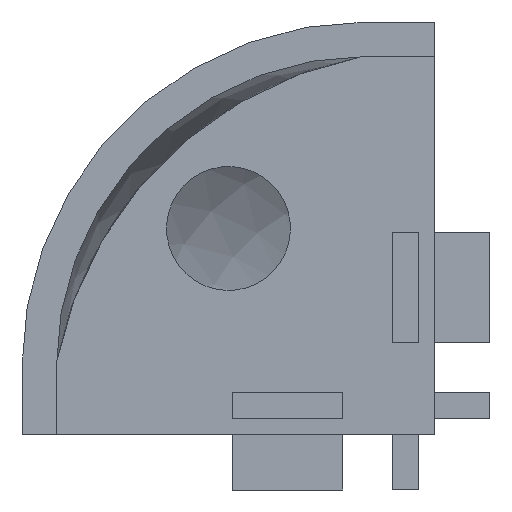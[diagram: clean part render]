
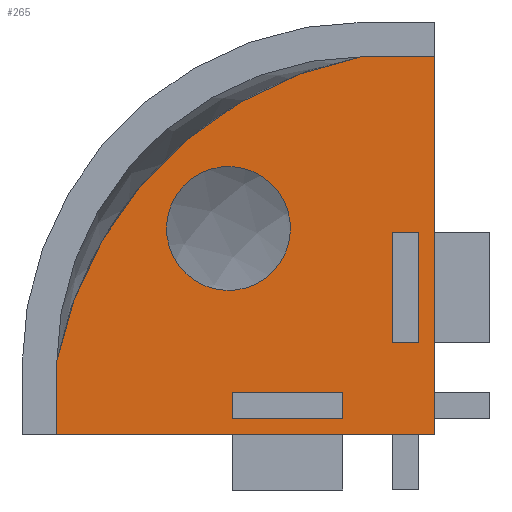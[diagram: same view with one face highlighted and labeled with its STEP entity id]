
A CAD part, left-side view. The second image highlights one B-rep face of the part: STEP entity #265.
In plain terms, the highlighted planar face has unit normal (-1, 0, 0) as drawn and (0, 0, -1) by its records, which use the part's own axes.
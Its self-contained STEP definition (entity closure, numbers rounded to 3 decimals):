
#88=CARTESIAN_POINT('',(1.2,14.7,-5.0));
#89=VERTEX_POINT('',#88);
#90=CARTESIAN_POINT('',(3.1,14.7,-5.0));
#91=VERTEX_POINT('',#90);
#92=CARTESIAN_POINT('',(1.2,14.7,-5.0));
#93=DIRECTION('',(1.0,0.0,0.0));
#94=VECTOR('',#93,1.9);
#95=LINE('',#92,#94);
#96=EDGE_CURVE('',#89,#91,#95,.T.);
#128=CARTESIAN_POINT('',(3.1,6.7,-5.0));
#129=VERTEX_POINT('',#128);
#130=CARTESIAN_POINT('',(3.1,14.7,-5.0));
#131=DIRECTION('',(0.0,-1.0,0.0));
#132=VECTOR('',#131,8.);
#133=LINE('',#130,#132);
#134=EDGE_CURVE('',#91,#129,#133,.T.);
#154=CARTESIAN_POINT('',(17.107,17.107,-5.0));
#155=DIRECTION('',(0.0,0.0,1.0));
#156=DIRECTION('',(1.0,0.0,0.0));
#157=AXIS2_PLACEMENT_3D('',#154,#155,#156);
#158=PLANE('',#157);
#159=CARTESIAN_POINT('',(0.0,27.5,-5.0));
#160=VERTEX_POINT('',#159);
#161=CARTESIAN_POINT('',(0.0,0.0,-5.0));
#162=VERTEX_POINT('',#161);
#163=CARTESIAN_POINT('',(0.0,27.5,-5.0));
#164=DIRECTION('',(0.0,-1.0,0.0));
#165=VECTOR('',#164,27.5);
#166=LINE('',#163,#165);
#167=EDGE_CURVE('',#160,#162,#166,.T.);
#168=ORIENTED_EDGE('',*,*,#167,.F.);
#169=CARTESIAN_POINT('',(5.268,27.5,-5.0));
#170=VERTEX_POINT('',#169);
#171=CARTESIAN_POINT('',(5.268,27.5,-5.0));
#172=DIRECTION('',(-1.0,0.0,0.0));
#173=VECTOR('',#172,5.268);
#174=LINE('',#171,#173);
#175=EDGE_CURVE('',#170,#160,#174,.T.);
#176=ORIENTED_EDGE('',*,*,#175,.F.);
#177=CARTESIAN_POINT('',(27.5,5.268,-5.0));
#178=VERTEX_POINT('',#177);
#179=CARTESIAN_POINT('',(0.0,0.0,-5.0));
#180=DIRECTION('',(0.0,0.0,1.0));
#181=DIRECTION('',(0.982,0.188,0.0));
#182=AXIS2_PLACEMENT_3D('',#179,#180,#181);
#183=CIRCLE('',#182,28.);
#184=EDGE_CURVE('',#178,#170,#183,.T.);
#185=ORIENTED_EDGE('',*,*,#184,.F.);
#186=CARTESIAN_POINT('',(27.5,0.,-5.0));
#187=VERTEX_POINT('',#186);
#188=CARTESIAN_POINT('',(27.5,0.,-5.0));
#189=DIRECTION('',(0.0,1.0,0.0));
#190=VECTOR('',#189,5.268);
#191=LINE('',#188,#190);
#192=EDGE_CURVE('',#187,#178,#191,.T.);
#193=ORIENTED_EDGE('',*,*,#192,.F.);
#194=CARTESIAN_POINT('',(0.0,0.0,-5.0));
#195=DIRECTION('',(1.0,0.0,0.0));
#196=VECTOR('',#195,27.5);
#197=LINE('',#194,#196);
#198=EDGE_CURVE('',#162,#187,#197,.T.);
#199=ORIENTED_EDGE('',*,*,#198,.F.);
#200=EDGE_LOOP('',(#168,#176,#185,#193,#199));
#201=FACE_OUTER_BOUND('',#200,.T.);
#202=CARTESIAN_POINT('',(1.2,6.7,-5.0));
#203=VERTEX_POINT('',#202);
#204=CARTESIAN_POINT('',(3.1,6.7,-5.0));
#205=DIRECTION('',(-1.0,0.0,0.0));
#206=VECTOR('',#205,1.9);
#207=LINE('',#204,#206);
#208=EDGE_CURVE('',#129,#203,#207,.T.);
#209=ORIENTED_EDGE('',*,*,#208,.F.);
#210=ORIENTED_EDGE('',*,*,#134,.F.);
#211=ORIENTED_EDGE('',*,*,#96,.F.);
#212=CARTESIAN_POINT('',(1.2,6.7,-5.0));
#213=DIRECTION('',(0.0,1.0,0.0));
#214=VECTOR('',#213,8.);
#215=LINE('',#212,#214);
#216=EDGE_CURVE('',#203,#89,#215,.T.);
#217=ORIENTED_EDGE('',*,*,#216,.F.);
#218=EDGE_LOOP('',(#209,#210,#211,#217));
#219=FACE_BOUND('',#218,.T.);
#220=CARTESIAN_POINT('',(14.7,1.2,-5.0));
#221=VERTEX_POINT('',#220);
#222=CARTESIAN_POINT('',(6.7,1.2,-5.0));
#223=VERTEX_POINT('',#222);
#224=CARTESIAN_POINT('',(14.7,1.2,-5.0));
#225=DIRECTION('',(-1.0,0.0,0.0));
#226=VECTOR('',#225,8.);
#227=LINE('',#224,#226);
#228=EDGE_CURVE('',#221,#223,#227,.T.);
#229=ORIENTED_EDGE('',*,*,#228,.F.);
#230=CARTESIAN_POINT('',(14.7,3.1,-5.0));
#231=VERTEX_POINT('',#230);
#232=CARTESIAN_POINT('',(14.7,3.1,-5.0));
#233=DIRECTION('',(0.0,-1.0,0.0));
#234=VECTOR('',#233,1.9);
#235=LINE('',#232,#234);
#236=EDGE_CURVE('',#231,#221,#235,.T.);
#237=ORIENTED_EDGE('',*,*,#236,.F.);
#238=CARTESIAN_POINT('',(6.7,3.1,-5.0));
#239=VERTEX_POINT('',#238);
#240=CARTESIAN_POINT('',(6.7,3.1,-5.0));
#241=DIRECTION('',(1.0,0.0,0.0));
#242=VECTOR('',#241,8.);
#243=LINE('',#240,#242);
#244=EDGE_CURVE('',#239,#231,#243,.T.);
#245=ORIENTED_EDGE('',*,*,#244,.F.);
#246=CARTESIAN_POINT('',(6.7,1.2,-5.0));
#247=DIRECTION('',(0.0,1.0,0.0));
#248=VECTOR('',#247,1.9);
#249=LINE('',#246,#248);
#250=EDGE_CURVE('',#223,#239,#249,.T.);
#251=ORIENTED_EDGE('',*,*,#250,.F.);
#252=EDGE_LOOP('',(#229,#237,#245,#251));
#253=FACE_BOUND('',#252,.T.);
#254=CARTESIAN_POINT('',(15.523,19.47,-5.0));
#255=VERTEX_POINT('',#254);
#256=CARTESIAN_POINT('',(15.0,15.0,-5.0));
#257=DIRECTION('',(0.0,0.0,1.0));
#258=DIRECTION('',(-1.0,0.0,0.0));
#259=AXIS2_PLACEMENT_3D('',#256,#257,#258);
#260=CIRCLE('',#259,4.5);
#261=EDGE_CURVE('',#255,#255,#260,.T.);
#262=ORIENTED_EDGE('',*,*,#261,.T.);
#263=EDGE_LOOP('',(#262));
#264=FACE_BOUND('',#263,.T.);
#265=ADVANCED_FACE('',(#201,#219,#253,#264),#158,.F.);
